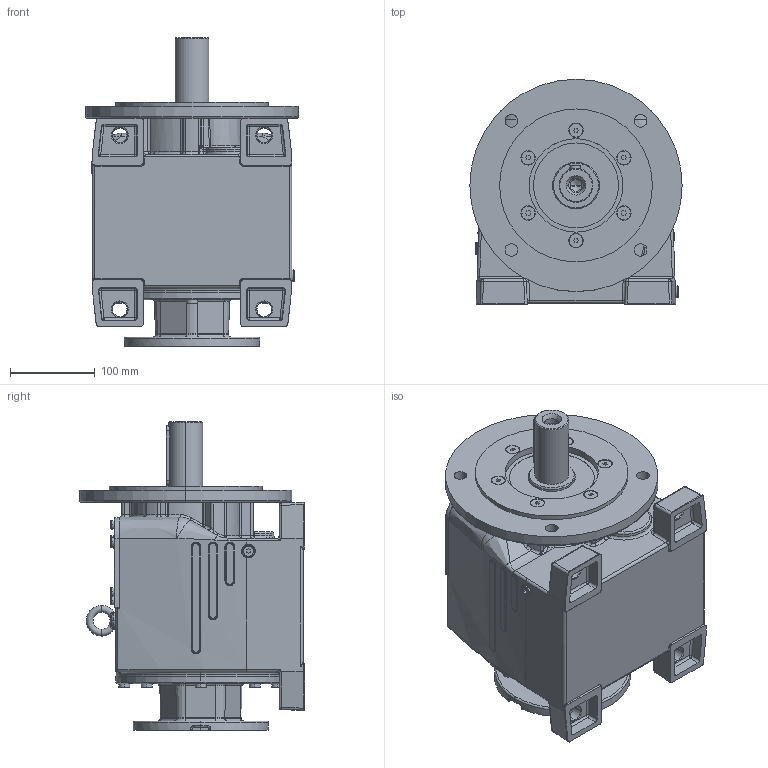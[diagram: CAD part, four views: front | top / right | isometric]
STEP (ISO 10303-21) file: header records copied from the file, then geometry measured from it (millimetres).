
FILE_DESCRIPTION (( 'STEP AP214' ), '1' );
FILE_NAME ('MTC53A-100-130+VP.STEP', '2006-05-05T06:36:43', ( '' ), ( '' ), 'SwSTEP 2.0', 'SolidWorks 2004146', '' );
FILE_SCHEMA (( 'AUTOMOTIVE_DESIGN' ));
Length unit declared in the file: millimetre
Products named in the file (6): Výst_pøíruba MTC_A_MTC5_A; pøíruba130 d72 MRT80a_Výchozí; Skrin MTC5_A_MTC53A_AP100; D7991_Šroub DIN 7991 - M8 x 25; D6912_Šroub DIN 6912 - M6x25; MTC53A-100-130+VP
Assembly tree (15 placements, depth 2):
  MTC53A-100-130+VP
    D7991_Šroub DIN 7991 - M8 x 25  x6
    D6912_Šroub DIN 6912 - M6x25  x6
    Výst_pøíruba MTC_A_MTC5_A
    pøíruba130 d72 MRT80a_Výchozí
    Skrin MTC5_A_MTC53A_AP100
Bounding box: 250 x 265 x 363.5 mm (x, y, z)
Volume: 10337904 mm3; surface area: 517725.8 mm2
Topology: 15 solids, 15 shells, 1761 faces, 4081 edges, 2367 vertices
Faces by surface type: plane 504, cylinder 454, torus 336, cone 216, bspline 198, sphere 53
Entity records: 146624 total; most frequent: CARTESIAN_POINT 109152, DIRECTION 7189, ORIENTED_EDGE 6912, EDGE_CURVE 3456, AXIS2_PLACEMENT_3D 2942, VERTEX_POINT 2079, CIRCLE 1641, EDGE_LOOP 1629
